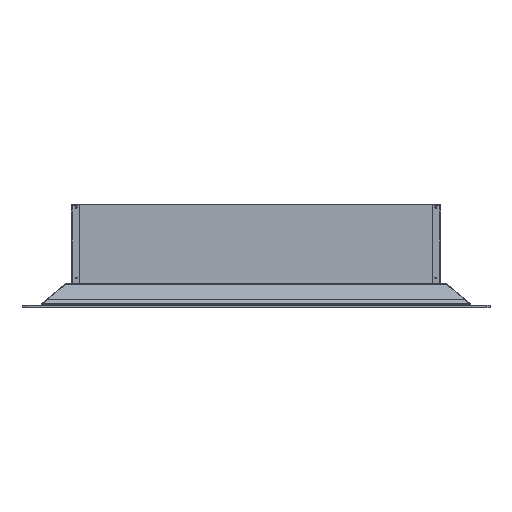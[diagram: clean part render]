
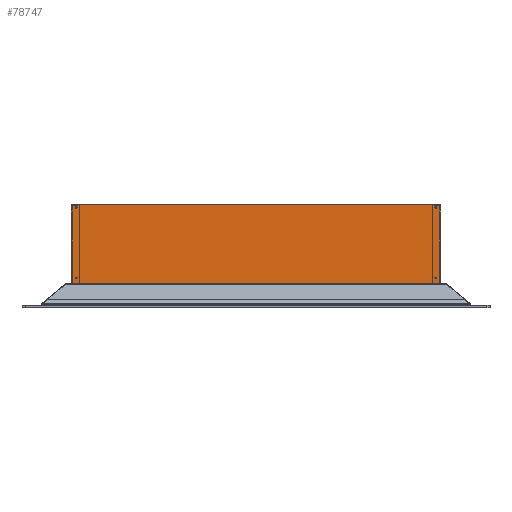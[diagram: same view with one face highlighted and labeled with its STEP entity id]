
A CAD part, front view. The second image highlights one B-rep face of the part: STEP entity #78747.
In plain terms, the highlighted planar face has unit normal (0, -1, 0).
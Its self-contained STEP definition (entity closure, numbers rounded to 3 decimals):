
#78257=CARTESIAN_POINT('',(-393.8,-195.,219.4));
#78258=VERTEX_POINT('',#78257);
#78273=CARTESIAN_POINT('',(393.8,-195.,219.4));
#78274=VERTEX_POINT('',#78273);
#78275=CARTESIAN_POINT('',(-393.8,-195.,219.4));
#78276=DIRECTION('',(1.0,0.0,0.0));
#78277=VECTOR('',#78276,787.6);
#78278=LINE('',#78275,#78277);
#78279=EDGE_CURVE('',#78258,#78274,#78278,.T.);
#78509=CARTESIAN_POINT('',(393.8,-195.,51.2));
#78510=VERTEX_POINT('',#78509);
#78694=CARTESIAN_POINT('',(-394.4,-195.,51.2));
#78695=VERTEX_POINT('',#78694);
#78702=CARTESIAN_POINT('',(-394.4,-195.,219.4));
#78703=VERTEX_POINT('',#78702);
#78704=CARTESIAN_POINT('',(-394.4,-195.,219.4));
#78705=DIRECTION('',(0.0,0.0,-1.0));
#78706=VECTOR('',#78705,168.2);
#78707=LINE('',#78704,#78706);
#78708=EDGE_CURVE('',#78703,#78695,#78707,.T.);
#78720=CARTESIAN_POINT('',(433.21,-195.,42.79));
#78721=DIRECTION('',(0.0,1.0,0.0));
#78722=DIRECTION('',(-1.0,0.0,0.0));
#78723=AXIS2_PLACEMENT_3D('',#78720,#78721,#78722);
#78724=PLANE('',#78723);
#78725=CARTESIAN_POINT('',(-394.4,-195.,51.2));
#78726=DIRECTION('',(1.0,0.0,0.0));
#78727=VECTOR('',#78726,788.2);
#78728=LINE('',#78725,#78727);
#78729=EDGE_CURVE('',#78695,#78510,#78728,.T.);
#78730=ORIENTED_EDGE('',*,*,#78729,.T.);
#78731=CARTESIAN_POINT('',(393.8,-195.,219.4));
#78732=DIRECTION('',(0.0,0.0,-1.0));
#78733=VECTOR('',#78732,168.2);
#78734=LINE('',#78731,#78733);
#78735=EDGE_CURVE('',#78274,#78510,#78734,.T.);
#78736=ORIENTED_EDGE('',*,*,#78735,.F.);
#78737=ORIENTED_EDGE('',*,*,#78279,.F.);
#78738=CARTESIAN_POINT('',(-394.4,-195.,219.4));
#78739=DIRECTION('',(1.0,0.0,0.0));
#78740=VECTOR('',#78739,0.6);
#78741=LINE('',#78738,#78740);
#78742=EDGE_CURVE('',#78703,#78258,#78741,.T.);
#78743=ORIENTED_EDGE('',*,*,#78742,.F.);
#78744=ORIENTED_EDGE('',*,*,#78708,.T.);
#78745=EDGE_LOOP('',(#78730,#78736,#78737,#78743,#78744));
#78746=FACE_OUTER_BOUND('',#78745,.T.);
#78747=ADVANCED_FACE('',(#78746),#78724,.F.);
